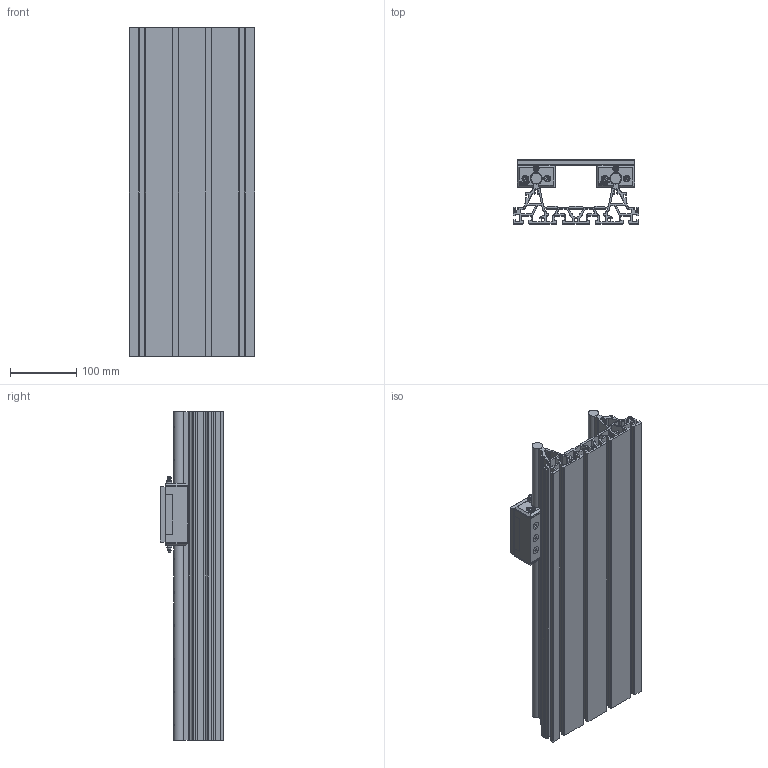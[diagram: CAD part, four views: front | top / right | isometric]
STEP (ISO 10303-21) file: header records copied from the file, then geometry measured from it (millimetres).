
FILE_DESCRIPTION (( 'STEP AP203' ), '1' );
FILE_NAME ('Linearführung LFS-16-120 ArtNr 220008 XXXX mit 2xILS 1 ArtNr 223240 0009.STEP', '2013-09-25T06:44:40', ( 'test' ), ( 'Microsoft' ), 'SwSTEP 2.0', 'SolidWorks 2012', '' );
FILE_SCHEMA (( 'CONFIG_CONTROL_DESIGN' ));
Products named in the file (1): Linearführung LFS-16-120 ArtNr 220008 XXXX mit 2xILS 1 ArtNr 223240 0009
Bounding box: 190 x 96.2 x 498 mm (x, y, z)
Surface area: 961793.4 mm2 (no closed solid volume)
Topology: 0 solids, 50 shells, 1575 faces, 4790 edges, 3255 vertices
Faces by surface type: plane 1004, cylinder 322, cone 102, bspline 77, torus 66, sphere 4
Full cylindrical faces by diameter (mm): 3.5 x20, 4.2 x8, 5 x6, 7 x20, 7.5 x20, 8.5 x10, 10 x12, 11 x8, 11.5 x10, 16 x2
Entity records: 59937 total; most frequent: CARTESIAN_POINT 20036, ORIENTED_EDGE 8148, DIRECTION 7371, EDGE_CURVE 4435, VERTEX_POINT 3144, LINE 2769, VECTOR 2769, AXIS2_PLACEMENT_3D 2301
